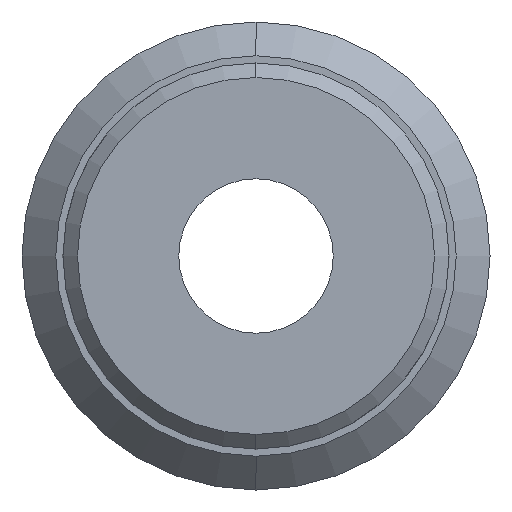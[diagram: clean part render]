
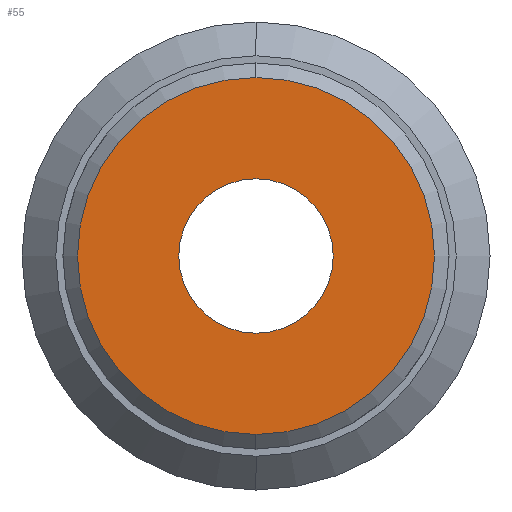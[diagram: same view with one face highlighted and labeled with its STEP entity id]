
A CAD part, left-side view. The second image highlights one B-rep face of the part: STEP entity #55.
In plain terms, the highlighted planar face has unit normal (-1, 0, 0).
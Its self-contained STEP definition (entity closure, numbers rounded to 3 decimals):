
#51 = VERTEX_POINT ( 'NONE', #198 ) ;
#55 = ADVANCED_FACE ( 'NONE', ( #513, #240 ), #1080, .F. ) ;
#83 = DIRECTION ( 'NONE',  ( 1., 0., 0. ) ) ;
#98 = CARTESIAN_POINT ( 'NONE',  ( -8.5, 0., 0. ) ) ;
#160 = DIRECTION ( 'NONE',  ( -1., 0., 0. ) ) ;
#198 = CARTESIAN_POINT ( 'NONE',  ( -8.5, 0., -3.7 ) ) ;
#208 = EDGE_CURVE ( 'NONE', #51, #1204, #397, .T. ) ;
#240 = FACE_OUTER_BOUND ( 'NONE', #748, .T. ) ;
#257 = CIRCLE ( 'NONE', #1241, 1.6 ) ;
#259 = CARTESIAN_POINT ( 'NONE',  ( -8.5, 0., 1.6 ) ) ;
#279 = AXIS2_PLACEMENT_3D ( 'NONE', #98, #437, #1029 ) ;
#373 = CARTESIAN_POINT ( 'NONE',  ( -8.5, 0., 0. ) ) ;
#376 = AXIS2_PLACEMENT_3D ( 'NONE', #438, #644, #441 ) ;
#378 = ORIENTED_EDGE ( 'NONE', *, *, #612, .F. ) ;
#397 = CIRCLE ( 'NONE', #279, 3.7 ) ;
#437 = DIRECTION ( 'NONE',  ( -1., 0., 0. ) ) ;
#438 = CARTESIAN_POINT ( 'NONE',  ( -8.5, 0., 0. ) ) ;
#441 = DIRECTION ( 'NONE',  ( 0., 0., 1. ) ) ;
#513 = FACE_BOUND ( 'NONE', #739, .T. ) ;
#573 = DIRECTION ( 'NONE',  ( 0., 0., 1. ) ) ;
#589 = DIRECTION ( 'NONE',  ( 0., 0., -1. ) ) ;
#612 = EDGE_CURVE ( 'NONE', #1191, #1108, #257, .T. ) ;
#644 = DIRECTION ( 'NONE',  ( -1., 0., 0. ) ) ;
#693 = CIRCLE ( 'NONE', #376, 3.7 ) ;
#730 = ORIENTED_EDGE ( 'NONE', *, *, #208, .T. ) ;
#739 = EDGE_LOOP ( 'NONE', ( #378, #1034 ) ) ;
#748 = EDGE_LOOP ( 'NONE', ( #730, #814 ) ) ;
#758 = CARTESIAN_POINT ( 'NONE',  ( -8.5, 0., 0. ) ) ;
#814 = ORIENTED_EDGE ( 'NONE', *, *, #1176, .T. ) ;
#853 = DIRECTION ( 'NONE',  ( 0., 0., 1. ) ) ;
#884 = CARTESIAN_POINT ( 'NONE',  ( -8.5, 3.7, 0. ) ) ;
#1013 = CIRCLE ( 'NONE', #1189, 1.6 ) ;
#1029 = DIRECTION ( 'NONE',  ( 0., 0., 1. ) ) ;
#1034 = ORIENTED_EDGE ( 'NONE', *, *, #1081, .F. ) ;
#1070 = CARTESIAN_POINT ( 'NONE',  ( -8.5, 0., 3.7 ) ) ;
#1080 = PLANE ( 'NONE',  #1100 ) ;
#1081 = EDGE_CURVE ( 'NONE', #1108, #1191, #1013, .T. ) ;
#1100 = AXIS2_PLACEMENT_3D ( 'NONE', #884, #83, #589 ) ;
#1108 = VERTEX_POINT ( 'NONE', #1164 ) ;
#1164 = CARTESIAN_POINT ( 'NONE',  ( -8.5, 0., -1.6 ) ) ;
#1176 = EDGE_CURVE ( 'NONE', #1204, #51, #693, .T. ) ;
#1189 = AXIS2_PLACEMENT_3D ( 'NONE', #373, #1268, #573 ) ;
#1191 = VERTEX_POINT ( 'NONE', #259 ) ;
#1204 = VERTEX_POINT ( 'NONE', #1070 ) ;
#1241 = AXIS2_PLACEMENT_3D ( 'NONE', #758, #160, #853 ) ;
#1268 = DIRECTION ( 'NONE',  ( -1., 0., 0. ) ) ;
